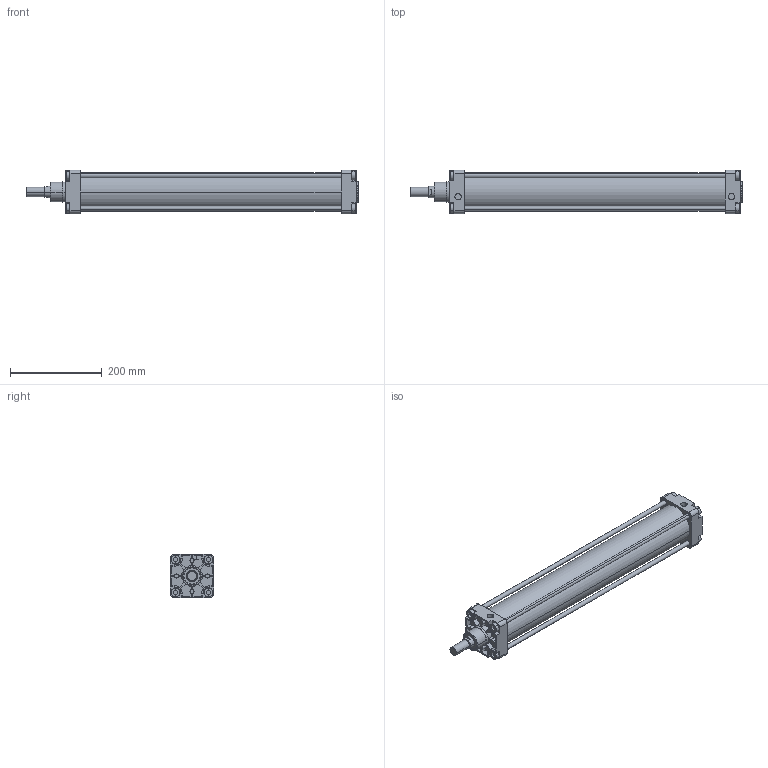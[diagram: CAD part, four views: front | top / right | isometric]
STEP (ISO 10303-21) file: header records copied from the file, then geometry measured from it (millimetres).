
FILE_DESCRIPTION(('CATIA V5 STEP Exchange'),'2;1');
FILE_NAME('D:\stp file for catalog\PNC\80\pnc 80-25-500-00.stp','2015-10-17T04:57:21+00:00',('none'),('none'),'Version 5-6 Release 2012','CATIA V5 STEP AP203','none');
FILE_SCHEMA(('CONFIG_CONTROL_DESIGN'));
Length unit declared in the file: millimetre
Products named in the file (1): PNC  80-25-500-00
Assembly tree (2 placements, depth 2):
  PNC  80-25-500-00
    #58
    #14781
Bounding box: 725 x 95 x 95 mm (x, y, z)
Volume: 1582463.9 mm3; surface area: 555314.9 mm2
Topology: 6 solids, 6 shells, 560 faces, 1404 edges, 916 vertices
Faces by surface type: plane 328, cylinder 184, torus 28, extrusion 16, cone 4
Entity records: 15305 total; most frequent: CARTESIAN_POINT 3040, ORIENTED_EDGE 2808, DIRECTION 1892, EDGE_CURVE 1404, VERTEX_POINT 916, VECTOR 898, LINE 882, AXIS2_PLACEMENT_3D 722
